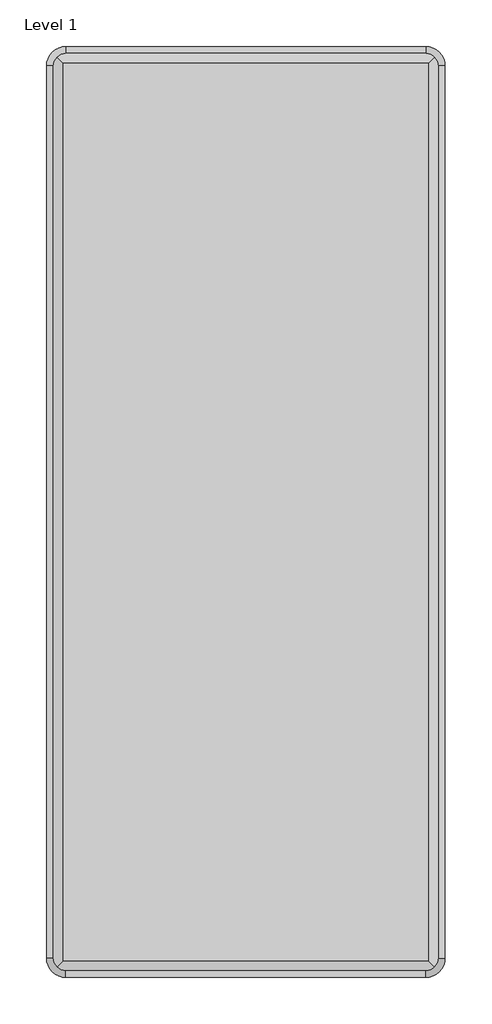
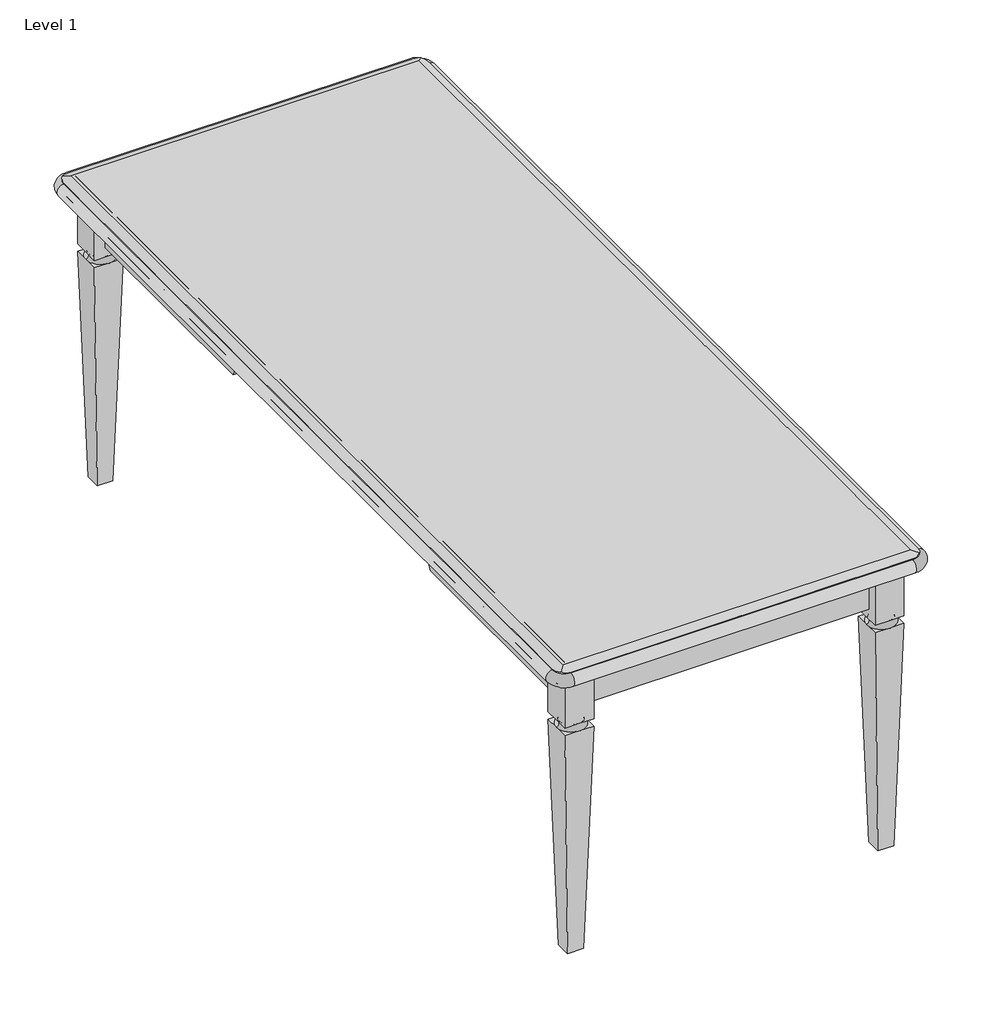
# One storey, incomplete: 1 proxy.
"""IFC4 building model written with IfcOpenShell, lengths in millimetres."""

from ifc_helpers import new_model, si_unit, origin, place, context, project, spatial, transform, mapped, element, save
from components import generic_models_e164af76

model = new_model("IFC4")

# Units and contexts
model_context = context("Model", 3, world=origin())
ifc_project = project(units=[si_unit("LENGTHUNIT", "METRE", prefix="MILLI")], contexts=[model_context])

# Site, building, storey
site = spatial("IfcSite", under=ifc_project)
building = spatial("IfcBuilding", under=site)
storey = spatial("IfcBuildingStorey", under=building, Name="Level 1", Elevation=0.0)

# Proxy
placement = place(None, origin())
generic_models_shape = generic_models_e164af76(model_context)
element("IfcBuildingElementProxy", 1, Name="CCN^BRIGHTON_36x84 TABLE DESK-PARTS SOLID", ObjectType="CCN^BRIGHTON_36x84 TABLE DESK-PARTS SOLID", at=placement, inside=storey, context=model_context, shape_type="MappedRepresentation", body=[
    mapped(generic_models_shape, transform((3000.375, -1330.325, 9.525), x_axis=(0.0, -1.0, 0.0), y_axis=(0.0, 0.0, 1.0), z_axis=(-1.0, 0.0, 0.0))),
])

save(model, "model.ifc")
